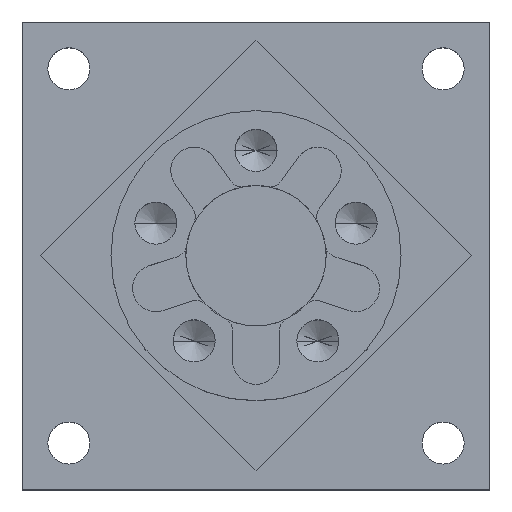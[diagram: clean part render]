
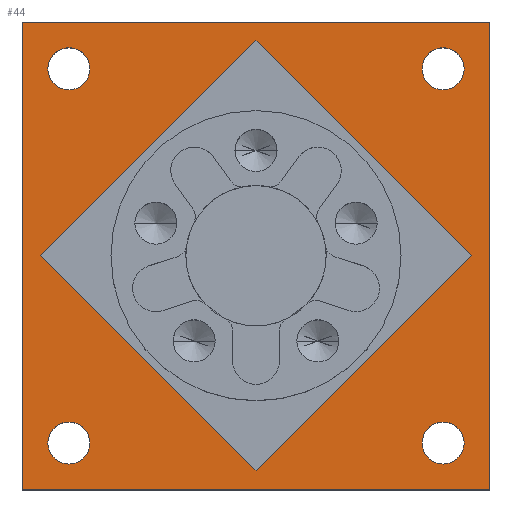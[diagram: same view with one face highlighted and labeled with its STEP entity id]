
A CAD part, top view. The second image highlights one B-rep face of the part: STEP entity #44.
In plain terms, the highlighted planar face has unit normal (0, 0, 1).
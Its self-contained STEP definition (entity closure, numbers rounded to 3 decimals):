
#7 = AXIS2_PLACEMENT_3D ( 'NONE', #973, #970, #967 ) ;
#10 = ORIENTED_EDGE ( 'NONE', *, *, #66, .F. ) ;
#44 = ADVANCED_FACE ( 'NONE', ( #910, #966, #933, #943, #999, #1009 ), #1289, .T. ) ;
#63 = CARTESIAN_POINT ( 'NONE',  ( -40., 40., 20. ) ) ;
#66 = EDGE_CURVE ( 'NONE', #1905, #2340, #947, .T. ) ;
#82 = EDGE_CURVE ( 'NONE', #1147, #777, #1268, .T. ) ;
#117 = DIRECTION ( 'NONE',  ( 0.707, 0.707, 0. ) ) ;
#121 = EDGE_LOOP ( 'NONE', ( #792, #613 ) ) ;
#137 = CARTESIAN_POINT ( 'NONE',  ( 50., 50., 20. ) ) ;
#182 = EDGE_CURVE ( 'NONE', #403, #1293, #1227, .T. ) ;
#205 = ORIENTED_EDGE ( 'NONE', *, *, #1875, .F. ) ;
#253 = DIRECTION ( 'NONE',  ( 1., 0., 0. ) ) ;
#255 = ORIENTED_EDGE ( 'NONE', *, *, #1174, .F. ) ;
#261 = VERTEX_POINT ( 'NONE', #648 ) ;
#262 = AXIS2_PLACEMENT_3D ( 'NONE', #1320, #1690, #2125 ) ;
#265 = DIRECTION ( 'NONE',  ( 1., 0., 0. ) ) ;
#273 = EDGE_CURVE ( 'NONE', #1602, #261, #1413, .T. ) ;
#275 = EDGE_CURVE ( 'NONE', #439, #950, #1420, .T. ) ;
#310 = DIRECTION ( 'NONE',  ( 0., 0., 1. ) ) ;
#313 = DIRECTION ( 'NONE',  ( 1., 0., 0. ) ) ;
#321 = EDGE_CURVE ( 'NONE', #2340, #1212, #1522, .T. ) ;
#332 = AXIS2_PLACEMENT_3D ( 'NONE', #63, #446, #1261 ) ;
#386 = VECTOR ( 'NONE', #2377, 1000. ) ;
#403 = VERTEX_POINT ( 'NONE', #566 ) ;
#419 = CARTESIAN_POINT ( 'NONE',  ( 45.962, 0., 20. ) ) ;
#422 = EDGE_CURVE ( 'NONE', #1767, #439, #1764, .T. ) ;
#439 = VERTEX_POINT ( 'NONE', #2429 ) ;
#446 = DIRECTION ( 'NONE',  ( 0., 0., 1. ) ) ;
#448 = EDGE_LOOP ( 'NONE', ( #1085, #1911 ) ) ;
#474 = DIRECTION ( 'NONE',  ( 0., 0., 1. ) ) ;
#478 = CARTESIAN_POINT ( 'NONE',  ( 0., -45.962, 20. ) ) ;
#480 = ORIENTED_EDGE ( 'NONE', *, *, #1122, .F. ) ;
#486 = CARTESIAN_POINT ( 'NONE',  ( 0., 45.962, 20. ) ) ;
#511 = DIRECTION ( 'NONE',  ( 0., 0., 1. ) ) ;
#521 = CIRCLE ( 'NONE', #7, 4.5 ) ;
#559 = EDGE_CURVE ( 'NONE', #261, #1602, #2050, .T. ) ;
#562 = CARTESIAN_POINT ( 'NONE',  ( 50., -50., 20. ) ) ;
#566 = CARTESIAN_POINT ( 'NONE',  ( 35.5, 40., 20. ) ) ;
#577 = CARTESIAN_POINT ( 'NONE',  ( 40., -40., 20. ) ) ;
#606 = VERTEX_POINT ( 'NONE', #419 ) ;
#613 = ORIENTED_EDGE ( 'NONE', *, *, #559, .F. ) ;
#618 = CARTESIAN_POINT ( 'NONE',  ( 45.962, 0., 20. ) ) ;
#648 = CARTESIAN_POINT ( 'NONE',  ( -35.5, 40., 20. ) ) ;
#703 = CARTESIAN_POINT ( 'NONE',  ( 44.5, 40., 20. ) ) ;
#730 = VERTEX_POINT ( 'NONE', #2209 ) ;
#757 = CARTESIAN_POINT ( 'NONE',  ( 40., 40., 20. ) ) ;
#777 = VERTEX_POINT ( 'NONE', #1950 ) ;
#782 = VECTOR ( 'NONE', #1656, 1000. ) ;
#784 = EDGE_LOOP ( 'NONE', ( #10, #1898, #786, #2384 ) ) ;
#786 = ORIENTED_EDGE ( 'NONE', *, *, #2041, .F. ) ;
#792 = ORIENTED_EDGE ( 'NONE', *, *, #273, .F. ) ;
#795 = ORIENTED_EDGE ( 'NONE', *, *, #422, .F. ) ;
#827 = VERTEX_POINT ( 'NONE', #1633 ) ;
#870 = VERTEX_POINT ( 'NONE', #1560 ) ;
#872 = LINE ( 'NONE', #618, #386 ) ;
#876 = CARTESIAN_POINT ( 'NONE',  ( -50., -50., 20. ) ) ;
#892 = CARTESIAN_POINT ( 'NONE',  ( 0., -45.962, 20. ) ) ;
#897 = DIRECTION ( 'NONE',  ( 1., 0., 0. ) ) ;
#910 = FACE_BOUND ( 'NONE', #121, .T. ) ;
#916 = LINE ( 'NONE', #478, #2059 ) ;
#930 = DIRECTION ( 'NONE',  ( 1., 0., 0. ) ) ;
#931 = DIRECTION ( 'NONE',  ( 0., 0., 1. ) ) ;
#933 = FACE_BOUND ( 'NONE', #1461, .T. ) ;
#936 = CARTESIAN_POINT ( 'NONE',  ( -40., -40., 20. ) ) ;
#943 = FACE_BOUND ( 'NONE', #448, .T. ) ;
#947 = LINE ( 'NONE', #1308, #2081 ) ;
#950 = VERTEX_POINT ( 'NONE', #1427 ) ;
#962 = CARTESIAN_POINT ( 'NONE',  ( 44.5, -40., 20. ) ) ;
#966 = FACE_BOUND ( 'NONE', #1196, .T. ) ;
#967 = DIRECTION ( 'NONE',  ( 1., 0., 0. ) ) ;
#969 = EDGE_LOOP ( 'NONE', ( #2371, #2427, #1533, #795 ) ) ;
#970 = DIRECTION ( 'NONE',  ( 0., 0., 1. ) ) ;
#973 = CARTESIAN_POINT ( 'NONE',  ( 40., 40., 20. ) ) ;
#999 = FACE_BOUND ( 'NONE', #784, .T. ) ;
#1009 = FACE_OUTER_BOUND ( 'NONE', #969, .T. ) ;
#1014 = CARTESIAN_POINT ( 'NONE',  ( 50., 50., 20. ) ) ;
#1040 = AXIS2_PLACEMENT_3D ( 'NONE', #757, #310, #313 ) ;
#1085 = ORIENTED_EDGE ( 'NONE', *, *, #2455, .F. ) ;
#1088 = CARTESIAN_POINT ( 'NONE',  ( -40., -40., 20. ) ) ;
#1122 = EDGE_CURVE ( 'NONE', #1293, #403, #521, .T. ) ;
#1147 = VERTEX_POINT ( 'NONE', #962 ) ;
#1161 = LINE ( 'NONE', #137, #1189 ) ;
#1174 = EDGE_CURVE ( 'NONE', #730, #870, #2295, .T. ) ;
#1189 = VECTOR ( 'NONE', #265, 1000. ) ;
#1196 = EDGE_LOOP ( 'NONE', ( #205, #255 ) ) ;
#1199 = ORIENTED_EDGE ( 'NONE', *, *, #182, .F. ) ;
#1200 = DIRECTION ( 'NONE',  ( 0., 0., 1. ) ) ;
#1204 = VECTOR ( 'NONE', #1811, 1000. ) ;
#1212 = VERTEX_POINT ( 'NONE', #892 ) ;
#1219 = DIRECTION ( 'NONE',  ( 1., 0., 0. ) ) ;
#1227 = CIRCLE ( 'NONE', #1040, 4.5 ) ;
#1261 = DIRECTION ( 'NONE',  ( 1., 0., 0. ) ) ;
#1268 = CIRCLE ( 'NONE', #1834, 4.5 ) ;
#1289 = PLANE ( 'NONE',  #262 ) ;
#1293 = VERTEX_POINT ( 'NONE', #703 ) ;
#1308 = CARTESIAN_POINT ( 'NONE',  ( -45.962, 0., 20. ) ) ;
#1314 = VECTOR ( 'NONE', #1338, 1000. ) ;
#1320 = CARTESIAN_POINT ( 'NONE',  ( 0., 0., 20. ) ) ;
#1338 = DIRECTION ( 'NONE',  ( -1., 0., 0. ) ) ;
#1413 = CIRCLE ( 'NONE', #1754, 4.5 ) ;
#1420 = LINE ( 'NONE', #1784, #1314 ) ;
#1427 = CARTESIAN_POINT ( 'NONE',  ( -50., -50., 20. ) ) ;
#1461 = EDGE_LOOP ( 'NONE', ( #1199, #480 ) ) ;
#1522 = LINE ( 'NONE', #1878, #1204 ) ;
#1527 = CARTESIAN_POINT ( 'NONE',  ( -45.962, 0., 20. ) ) ;
#1533 = ORIENTED_EDGE ( 'NONE', *, *, #275, .F. ) ;
#1550 = AXIS2_PLACEMENT_3D ( 'NONE', #1088, #511, #897 ) ;
#1556 = LINE ( 'NONE', #876, #782 ) ;
#1560 = CARTESIAN_POINT ( 'NONE',  ( -44.5, -40., 20. ) ) ;
#1602 = VERTEX_POINT ( 'NONE', #2356 ) ;
#1633 = CARTESIAN_POINT ( 'NONE',  ( -50., 50., 20. ) ) ;
#1656 = DIRECTION ( 'NONE',  ( 0., 1., 0. ) ) ;
#1657 = CIRCLE ( 'NONE', #2039, 4.5 ) ;
#1661 = DIRECTION ( 'NONE',  ( -0.707, -0.707, 0. ) ) ;
#1672 = AXIS2_PLACEMENT_3D ( 'NONE', #936, #931, #930 ) ;
#1690 = DIRECTION ( 'NONE',  ( 0., 0., 1. ) ) ;
#1707 = DIRECTION ( 'NONE',  ( 0., -1., 0. ) ) ;
#1744 = CARTESIAN_POINT ( 'NONE',  ( 40., -40., 20. ) ) ;
#1754 = AXIS2_PLACEMENT_3D ( 'NONE', #1778, #1200, #1219 ) ;
#1758 = EDGE_CURVE ( 'NONE', #606, #1905, #872, .T. ) ;
#1764 = LINE ( 'NONE', #562, #1775 ) ;
#1767 = VERTEX_POINT ( 'NONE', #1014 ) ;
#1775 = VECTOR ( 'NONE', #1707, 1000. ) ;
#1778 = CARTESIAN_POINT ( 'NONE',  ( -40., 40., 20. ) ) ;
#1784 = CARTESIAN_POINT ( 'NONE',  ( 50., -50., 20. ) ) ;
#1811 = DIRECTION ( 'NONE',  ( 0.707, -0.707, 0. ) ) ;
#1834 = AXIS2_PLACEMENT_3D ( 'NONE', #577, #474, #253 ) ;
#1839 = EDGE_CURVE ( 'NONE', #827, #1767, #1161, .T. ) ;
#1875 = EDGE_CURVE ( 'NONE', #870, #730, #1975, .T. ) ;
#1878 = CARTESIAN_POINT ( 'NONE',  ( 0., -45.962, 20. ) ) ;
#1883 = EDGE_CURVE ( 'NONE', #950, #827, #1556, .T. ) ;
#1898 = ORIENTED_EDGE ( 'NONE', *, *, #1758, .F. ) ;
#1905 = VERTEX_POINT ( 'NONE', #486 ) ;
#1911 = ORIENTED_EDGE ( 'NONE', *, *, #82, .F. ) ;
#1950 = CARTESIAN_POINT ( 'NONE',  ( 35.5, -40., 20. ) ) ;
#1975 = CIRCLE ( 'NONE', #1550, 4.5 ) ;
#2034 = DIRECTION ( 'NONE',  ( 0., 0., 1. ) ) ;
#2039 = AXIS2_PLACEMENT_3D ( 'NONE', #1744, #2034, #2066 ) ;
#2041 = EDGE_CURVE ( 'NONE', #1212, #606, #916, .T. ) ;
#2050 = CIRCLE ( 'NONE', #332, 4.5 ) ;
#2059 = VECTOR ( 'NONE', #117, 1000. ) ;
#2066 = DIRECTION ( 'NONE',  ( 1., 0., 0. ) ) ;
#2081 = VECTOR ( 'NONE', #1661, 1000. ) ;
#2125 = DIRECTION ( 'NONE',  ( 1., 0., 0. ) ) ;
#2209 = CARTESIAN_POINT ( 'NONE',  ( -35.5, -40., 20. ) ) ;
#2295 = CIRCLE ( 'NONE', #1672, 4.5 ) ;
#2340 = VERTEX_POINT ( 'NONE', #1527 ) ;
#2356 = CARTESIAN_POINT ( 'NONE',  ( -44.5, 40., 20. ) ) ;
#2371 = ORIENTED_EDGE ( 'NONE', *, *, #1839, .F. ) ;
#2377 = DIRECTION ( 'NONE',  ( -0.707, 0.707, 0. ) ) ;
#2384 = ORIENTED_EDGE ( 'NONE', *, *, #321, .F. ) ;
#2427 = ORIENTED_EDGE ( 'NONE', *, *, #1883, .F. ) ;
#2429 = CARTESIAN_POINT ( 'NONE',  ( 50., -50., 20. ) ) ;
#2455 = EDGE_CURVE ( 'NONE', #777, #1147, #1657, .T. ) ;
